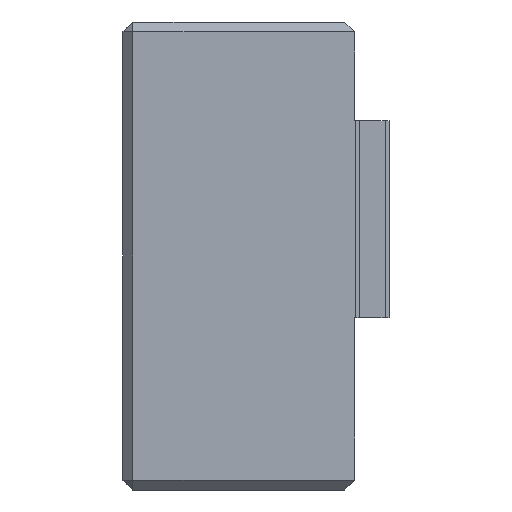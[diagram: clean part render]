
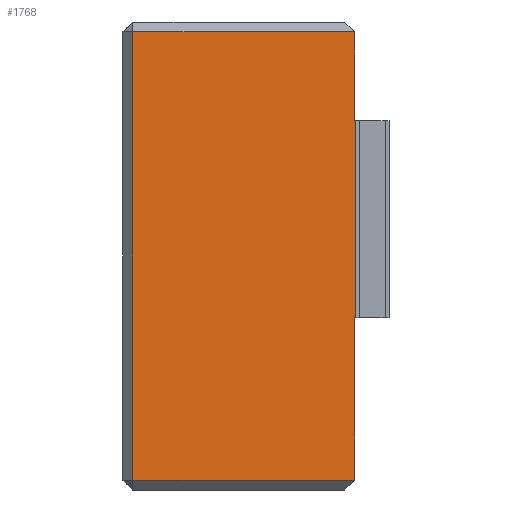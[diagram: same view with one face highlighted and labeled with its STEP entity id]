
A CAD part, left-side view. The second image highlights one B-rep face of the part: STEP entity #1768.
In plain terms, the highlighted planar face has unit normal (-1, 0, 0).
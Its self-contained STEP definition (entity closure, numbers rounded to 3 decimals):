
#10 = EDGE_CURVE ( 'NONE', #1976, #173, #1038, .T. ) ;
#45 = EDGE_CURVE ( 'NONE', #173, #884, #586, .T. ) ;
#82 = ORIENTED_EDGE ( 'NONE', *, *, #2044, .T. ) ;
#138 = LINE ( 'NONE', #1942, #850 ) ;
#173 = VERTEX_POINT ( 'NONE', #1632 ) ;
#228 = LINE ( 'NONE', #717, #1333 ) ;
#288 = DIRECTION ( 'NONE',  ( -1., 0., 0. ) ) ;
#289 = EDGE_CURVE ( 'NONE', #808, #2111, #1012, .T. ) ;
#381 = CARTESIAN_POINT ( 'NONE',  ( -14.5, 3.5, -10. ) ) ;
#409 = CARTESIAN_POINT ( 'NONE',  ( -14.5, 27., -46.5 ) ) ;
#411 = DIRECTION ( 'NONE',  ( 0., 1., 0. ) ) ;
#417 = DIRECTION ( 'NONE',  ( 0., -1., 0. ) ) ;
#438 = EDGE_CURVE ( 'NONE', #1416, #1606, #537, .T. ) ;
#439 = ORIENTED_EDGE ( 'NONE', *, *, #45, .T. ) ;
#525 = DIRECTION ( 'NONE',  ( 0., -1., 0. ) ) ;
#537 = LINE ( 'NONE', #409, #638 ) ;
#577 = AXIS2_PLACEMENT_3D ( 'NONE', #1770, #288, #1951 ) ;
#586 = LINE ( 'NONE', #755, #670 ) ;
#593 = ORIENTED_EDGE ( 'NONE', *, *, #438, .T. ) ;
#602 = LINE ( 'NONE', #1294, #1302 ) ;
#614 = DIRECTION ( 'NONE',  ( 0., 0., 1. ) ) ;
#638 = VECTOR ( 'NONE', #417, 1000. ) ;
#670 = VECTOR ( 'NONE', #411, 1000. ) ;
#692 = DIRECTION ( 'NONE',  ( 0., -1., 0. ) ) ;
#717 = CARTESIAN_POINT ( 'NONE',  ( -14.5, 3.5, -10. ) ) ;
#737 = CARTESIAN_POINT ( 'NONE',  ( -14.5, 3.5, -30. ) ) ;
#755 = CARTESIAN_POINT ( 'NONE',  ( -14.5, 27., -1. ) ) ;
#784 = CARTESIAN_POINT ( 'NONE',  ( -14.5, 3.4, -30. ) ) ;
#795 = DIRECTION ( 'NONE',  ( 0., 0., 1. ) ) ;
#808 = VERTEX_POINT ( 'NONE', #737 ) ;
#810 = VECTOR ( 'NONE', #882, 1000. ) ;
#829 = EDGE_LOOP ( 'NONE', ( #1093, #82, #991, #1535, #439, #1312, #593, #2136 ) ) ;
#850 = VECTOR ( 'NONE', #795, 1000. ) ;
#882 = DIRECTION ( 'NONE',  ( 0., 0., -1. ) ) ;
#884 = VERTEX_POINT ( 'NONE', #1705 ) ;
#991 = ORIENTED_EDGE ( 'NONE', *, *, #1620, .F. ) ;
#1012 = LINE ( 'NONE', #1642, #2041 ) ;
#1038 = LINE ( 'NONE', #1332, #1186 ) ;
#1093 = ORIENTED_EDGE ( 'NONE', *, *, #289, .T. ) ;
#1095 = PLANE ( 'NONE',  #577 ) ;
#1115 = CARTESIAN_POINT ( 'NONE',  ( -14.5, 3.4, -10. ) ) ;
#1186 = VECTOR ( 'NONE', #2011, 1000. ) ;
#1236 = EDGE_CURVE ( 'NONE', #884, #1416, #1382, .T. ) ;
#1294 = CARTESIAN_POINT ( 'NONE',  ( -14.5, 3.4, -47.5 ) ) ;
#1302 = VECTOR ( 'NONE', #614, 1000. ) ;
#1312 = ORIENTED_EDGE ( 'NONE', *, *, #1236, .T. ) ;
#1332 = CARTESIAN_POINT ( 'NONE',  ( -14.5, 3.5, 0. ) ) ;
#1333 = VECTOR ( 'NONE', #692, 1000. ) ;
#1382 = LINE ( 'NONE', #1706, #810 ) ;
#1416 = VERTEX_POINT ( 'NONE', #1964 ) ;
#1535 = ORIENTED_EDGE ( 'NONE', *, *, #10, .T. ) ;
#1606 = VERTEX_POINT ( 'NONE', #1703 ) ;
#1620 = EDGE_CURVE ( 'NONE', #1976, #1668, #228, .T. ) ;
#1632 = CARTESIAN_POINT ( 'NONE',  ( -14.5, 3.5, -1. ) ) ;
#1642 = CARTESIAN_POINT ( 'NONE',  ( -14.5, 3.5, -30. ) ) ;
#1668 = VERTEX_POINT ( 'NONE', #1115 ) ;
#1703 = CARTESIAN_POINT ( 'NONE',  ( -14.5, 3.5, -46.5 ) ) ;
#1705 = CARTESIAN_POINT ( 'NONE',  ( -14.5, 26., -1. ) ) ;
#1706 = CARTESIAN_POINT ( 'NONE',  ( -14.5, 26., -47.5 ) ) ;
#1730 = EDGE_CURVE ( 'NONE', #1606, #808, #138, .T. ) ;
#1768 = ADVANCED_FACE ( 'NONE', ( #1975 ), #1095, .T. ) ;
#1770 = CARTESIAN_POINT ( 'NONE',  ( -14.5, 27., -47.5 ) ) ;
#1942 = CARTESIAN_POINT ( 'NONE',  ( -14.5, 3.5, -47.5 ) ) ;
#1951 = DIRECTION ( 'NONE',  ( 0., -1., 0. ) ) ;
#1964 = CARTESIAN_POINT ( 'NONE',  ( -14.5, 26., -46.5 ) ) ;
#1975 = FACE_OUTER_BOUND ( 'NONE', #829, .T. ) ;
#1976 = VERTEX_POINT ( 'NONE', #381 ) ;
#2011 = DIRECTION ( 'NONE',  ( 0., 0., 1. ) ) ;
#2041 = VECTOR ( 'NONE', #525, 1000. ) ;
#2044 = EDGE_CURVE ( 'NONE', #2111, #1668, #602, .T. ) ;
#2111 = VERTEX_POINT ( 'NONE', #784 ) ;
#2136 = ORIENTED_EDGE ( 'NONE', *, *, #1730, .T. ) ;
